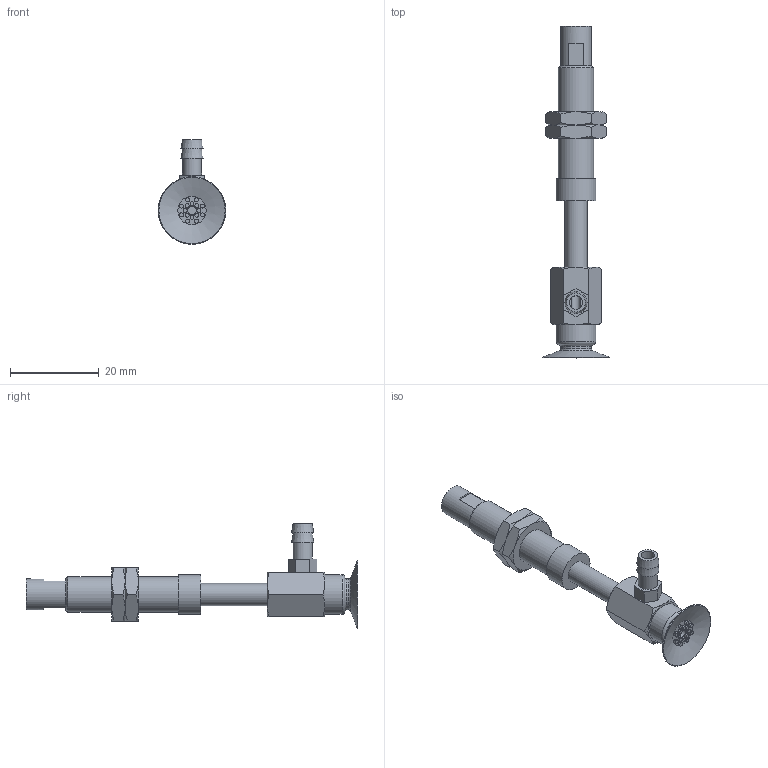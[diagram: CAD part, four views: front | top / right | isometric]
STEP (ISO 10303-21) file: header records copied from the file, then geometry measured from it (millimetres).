
FILE_DESCRIPTION(('STEP AP203'),'1');
FILE_NAME('-T.stp','2025-02-14T00:23:02',(' '),(' '),'Spatial InterOp 3D',' ',' ');
FILE_SCHEMA(('CONFIG_CONTROL_DESIGN'));
Length unit declared in the file: millimetre
Products named in the file (7): BNABPAYS-15A-15-※-T; NAPAYS-10A-15--M; NAPAYS-10A-15--F; Nut-10A-S; CONNECTOR-10A-15-PA; BPAG-15A-※_3D; T
Assembly tree (7 placements, depth 2):
  BNABPAYS-15A-15-※-T
    NAPAYS-10A-15--M
    NAPAYS-10A-15--F
    Nut-10A-S  x2
    CONNECTOR-10A-15-PA
    BPAG-15A-※_3D
    T
Bounding box: 15.3 x 75 x 23.65 mm (x, y, z)
Volume: 4136.5 mm3; surface area: 5405.2 mm2
Topology: 7 solids, 7 shells, 178 faces, 351 edges, 216 vertices
Faces by surface type: plane 79, cone 53, cylinder 37, torus 9
Full cylindrical faces by diameter (mm): 0.9 x16, 2 x2, 3 x1, 4 x2, 4.134 x2, 4.3 x1, 5 x4, 6 x2, 7 x2, 7.188 x2, 8 x1, 9 x2
Entity records: 4210 total; most frequent: CARTESIAN_POINT 929, DIRECTION 634, ORIENTED_EDGE 474, AXIS2_PLACEMENT_3D 288, EDGE_LOOP 254, EDGE_CURVE 237, FACE_OUTER_BOUND 200, VERTEX_POINT 181
